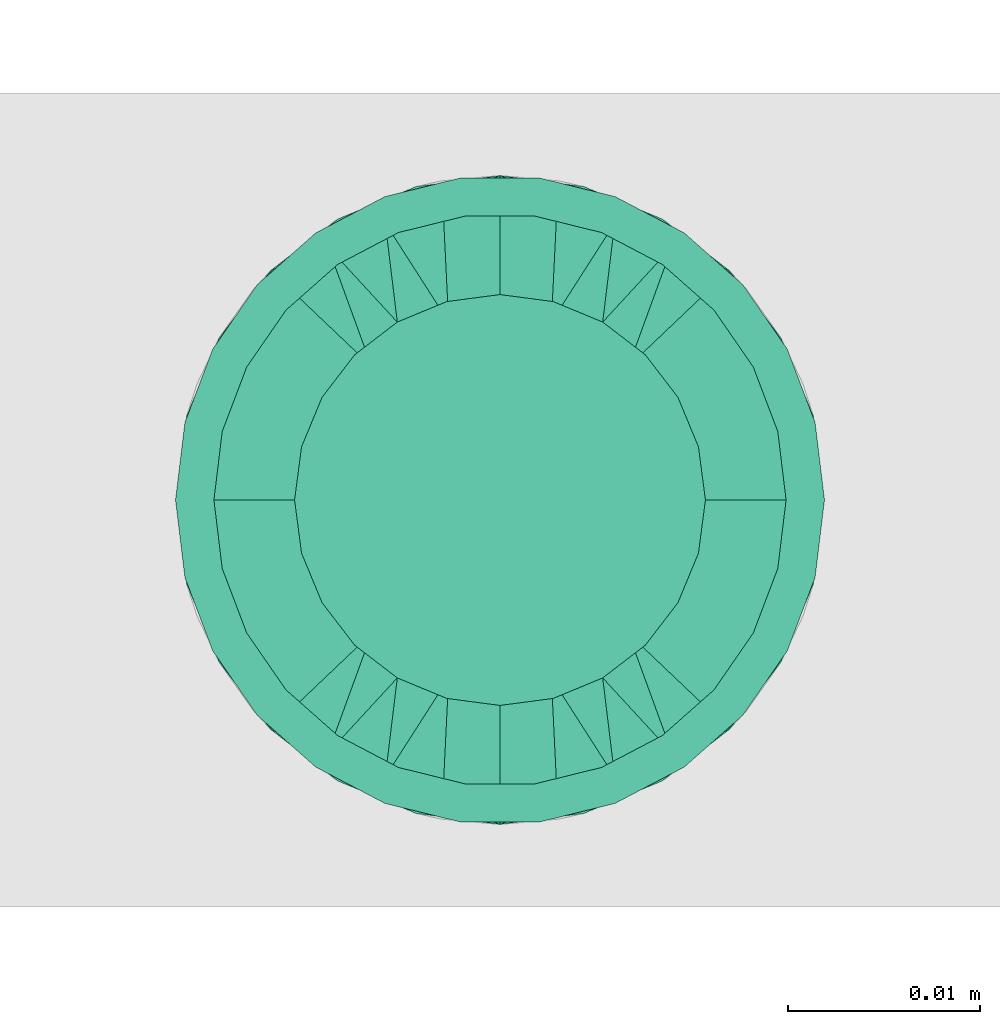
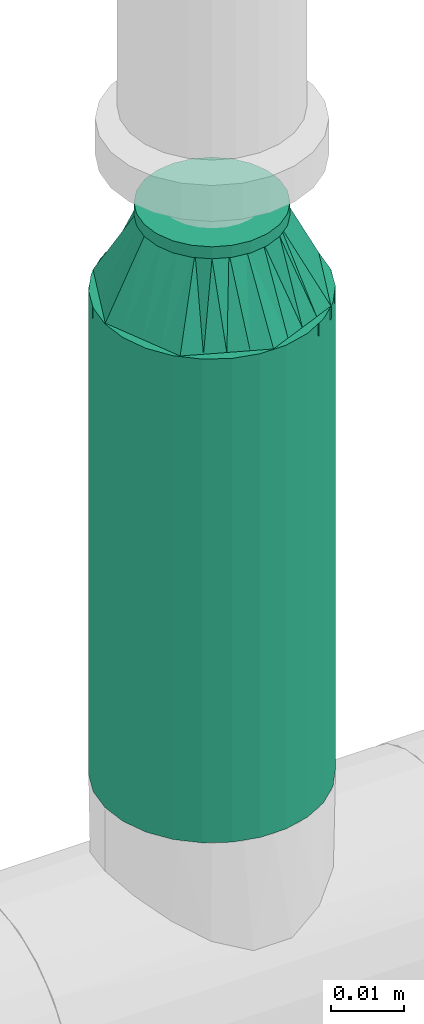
# One storey, part 15 of 94: 1 flow fitting, 1 flow segment.
"""IFC2X3 building model written with IfcOpenShell, lengths in millimetres."""

from ifc_helpers import new_model, entity, si_unit, converted_unit, derived_unit, direction, frame, origin_with_axes, origin_2d_with_axis, place, context, subcontext, project, spatial, hollow_circle, extrude, open_shell, surface_model, source, transform, mapped, type_object, element, save


model = new_model("IFC2X3")

# Units and contexts
model_context = context("Model", 3, precision=0.01, world=frame((0.0, 4.29681676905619e-09, 0.0)), true_north=direction((4.01073788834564e-13, 1.0)))
plan_context = context("Plan", 3, precision=0.01, world=frame((0.0, 4.29681676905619e-09, 0.0)), true_north=direction((4.01073788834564e-13, 1.0)))
body_context = subcontext(model_context, "Body", "Model", "MODEL_VIEW")
ifc_project = project(units=[converted_unit("PLANEANGLEUNIT", "DEGREE", entity("IfcPositiveLengthMeasure", 0.0174532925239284), si_unit("PLANEANGLEUNIT", "RADIAN"), dimensions=[0, 0, 0, 0, 0, 0, 0]), si_unit("AREAUNIT", "SQUARE_METRE"), si_unit("LENGTHUNIT", "METRE", prefix="MILLI"), si_unit("MASSUNIT", "GRAM", prefix="KILO"), si_unit("POWERUNIT", "WATT"), si_unit("PRESSUREUNIT", "PASCAL"), si_unit("FORCEUNIT", "NEWTON", prefix="KILO"), si_unit("ELECTRICCURRENTUNIT", "AMPERE"), si_unit("THERMODYNAMICTEMPERATUREUNIT", "DEGREE_CELSIUS"), si_unit("TIMEUNIT", "SECOND"), si_unit("VOLUMEUNIT", "CUBIC_METRE"), derived_unit("LINEARVELOCITYUNIT", [(si_unit("LENGTHUNIT", "METRE"), 1), (si_unit("TIMEUNIT", "SECOND"), -1)]), derived_unit("VOLUMETRICFLOWRATEUNIT", [(si_unit("VOLUMEUNIT", "CUBIC_METRE"), 1), (si_unit("TIMEUNIT", "SECOND"), -1)]), derived_unit("THERMALTRANSMITTANCEUNIT", [(si_unit("POWERUNIT", "WATT"), 1), (si_unit("THERMODYNAMICTEMPERATUREUNIT", "KELVIN"), -1), (si_unit("AREAUNIT", "SQUARE_METRE"), -1)])], contexts=[model_context, plan_context])

# Site, building, storey
site_placement = place(None, frame((0.0, -4.29681676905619e-09, 0.0), z_axis=(0.0, 0.0, 1.0), x_axis=(1.0, 0.0, 0.0)))
site = spatial("IfcSite", under=ifc_project, at=site_placement, CompositionType="ELEMENT")
building_placement = place(site_placement, frame((0.0, 4.29681676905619e-09, 0.0), z_axis=(0.0, 0.0, 1.0), x_axis=(1.0, 0.0, 0.0)))
building = spatial("IfcBuilding", under=site, at=building_placement, Name="mc-building", CompositionType="ELEMENT")
storey_placement = place(building_placement, frame((0.0, 0.0, 200300.0), z_axis=(0.0, 0.0, 1.0), x_axis=(1.0, 0.0, 0.0)))
storey = spatial("IfcBuildingStorey", under=building, at=storey_placement, Name="Nivå C", CompositionType="ELEMENT", Elevation=200300.0)

# Flow fitting
pipe_fitting_type = type_object("IfcPipeFittingType", Name="magi_pipe_fe_reducer_centric_short_NOR", PredefinedType="TRANSITION")
shared_shape_1 = source(origin_with_axes(), body_context, "Body", "SurfaceModel", [
    surface_model("IfcShellBasedSurfaceModel", [(14.4, 5.35, -9.26647), (14.4, 0.0, -10.7), (14.4, 2.76936, -10.33541), (14.4, 10.33541, -2.76936), (14.4, 7.56604, -7.56604), (14.4, -10.33541, -2.76936), (14.4, 9.26647, -5.35), (14.4, 0.0, 10.7), (14.4, -5.35, -9.26647), (14.4, -2.76936, -10.33541), (14.4, -7.56604, -7.56604), (14.4, -9.26647, -5.35), (14.4, 10.7, 0.0), (14.4, 10.33541, 2.76936), (14.4, 9.26647, 5.35), (14.4, 7.56604, 7.56604), (14.4, 2.76936, 10.33541), (14.4, 5.35, 9.26647), (14.4, -10.33541, 2.76936), (14.4, -7.56604, 7.56604), (14.4, -9.26647, 5.35), (14.4, -10.7, 0.0), (14.4, -2.76936, 10.33541), (14.4, -5.35, 9.26647), (12.4, 2.76936, 10.33541), (12.4, -10.33541, -2.76936), (12.4, 0.0, 10.7), (12.4, 5.35, 9.26647), (12.4, 7.56604, 7.56604), (12.4, 9.26647, 5.35), (12.4, 10.33541, 2.76936), (12.4, -10.33541, 2.76936), (12.4, -2.76936, 10.33541), (12.4, -7.56604, 7.56604), (12.4, -5.35, 9.26647), (12.4, -9.26647, 5.35), (12.4, -10.7, 0.0), (12.4, 10.33541, -2.76936), (12.4, 5.35, -9.26647), (12.4, 9.26647, -5.35), (12.4, 7.56604, -7.56604), (12.4, 2.76936, -10.33541), (12.4, -9.26647, -5.35), (12.4, -5.35, -9.26647), (12.4, -7.56604, -7.56604), (12.4, 0.0, -10.7), (12.4, -2.76936, -10.33541), (12.4, 10.7, 0.0), (-2.0, 11.9501, 11.9501), (-2.0, 0.0, 16.9), (-2.0, 4.37404, 16.32415), (-2.0, 8.45, 14.63583), (-2.0, 14.63583, 8.45), (-2.0, 16.32415, 4.37404), (-2.0, -16.32415, 4.37404), (-2.0, -8.45, 14.63583), (-2.0, -14.63583, 8.45), (-2.0, -11.9501, 11.9501), (-2.0, -4.37404, 16.32415), (-2.0, -16.32415, -4.37404), (-2.0, -16.9, 0.0), (-2.0, -8.45, -14.63583), (-2.0, 16.32415, -4.37404), (-2.0, 11.9501, -11.9501), (-2.0, 14.63583, -8.45), (-2.0, 8.45, -14.63583), (-2.0, 4.37404, -16.32415), (-2.0, 0.0, -16.9), (-2.0, -11.9501, -11.9501), (-2.0, -14.63583, -8.45), (-2.0, -4.37404, -16.32415), (-2.0, 16.9, 0.0), (0.0, 4.37404, -16.32415), (0.0, 8.45, -14.63583), (0.0, 11.9501, -11.9501), (0.0, 0.0, -16.9), (0.0, 16.32415, -4.37404), (0.0, 16.32415, 4.37404), (0.0, 14.63583, -8.45), (0.0, -8.45, -14.63583), (0.0, -4.37404, -16.32415), (0.0, -11.9501, -11.9501), (0.0, -16.32415, -4.37404), (0.0, -14.63583, -8.45), (0.0, -16.32415, 4.37404), (0.0, 16.9, 0.0), (0.0, 14.63583, 8.45), (0.0, 11.9501, 11.9501), (0.0, 4.37404, 16.32415), (0.0, 8.45, 14.63583), (0.0, 0.0, 16.9), (0.0, -14.63583, 8.45), (0.0, -16.9, 0.0), (0.0, -8.45, 14.63583), (0.0, -11.9501, 11.9501), (0.0, -4.37404, 16.32415), (12.4, 9.3625, -2.31662), (0.0, 14.42505, -5.97505), (0.0, 15.66253, -2.98753), (12.4, -6.6875, -6.94985), (0.0, -13.18758, -8.96258), (0.0, 2.98753, -15.66253), (12.4, 0.0, -9.26647), (12.4, 6.6875, -6.94985), (0.0, 8.96258, -13.18758), (12.4, -9.3625, -2.31662), (0.0, -15.66253, -2.98753), (0.0, -14.42505, -5.97505), (0.0, 5.97505, -14.42505), (0.0, -2.98753, -15.66253), (0.0, -8.96258, -13.18758), (0.0, 13.18758, -8.96258), (12.4, 8.025, -4.63324), (12.4, -2.675, -9.26647), (12.4, 2.675, -9.26647), (0.0, -5.97505, -14.42505), (12.4, -8.025, -4.63324), (12.4, -9.3625, 2.31662), (0.0, -14.42505, 5.97505), (0.0, -15.66253, 2.98753), (12.4, 6.6875, 6.94985), (0.0, 13.18758, 8.96258), (0.0, -2.98753, 15.66253), (12.4, 0.0, 9.26647), (12.4, -6.6875, 6.94985), (0.0, -8.96258, 13.18758), (12.4, 9.3625, 2.31662), (0.0, 15.66253, 2.98753), (0.0, 14.42505, 5.97505), (0.0, -5.97505, 14.42505), (0.0, 2.98753, 15.66253), (0.0, 8.96258, 13.18758), (0.0, -13.18758, 8.96258), (12.4, -8.025, 4.63324), (12.4, 2.675, 9.26647), (12.4, -2.675, 9.26647), (0.0, 5.97505, 14.42505), (12.4, 8.025, 4.63324)], [open_shell([[[0, 1, 2]], [[3, 0, 4]], [[5, 0, 3]], [[3, 4, 6]], [[7, 5, 3]], [[1, 8, 9]], [[1, 0, 8]], [[10, 5, 11]], [[5, 10, 8]], [[0, 5, 8]], [[3, 12, 13]], [[13, 14, 15]], [[13, 15, 16]], [[7, 3, 16]], [[16, 15, 17]], [[7, 18, 5]], [[18, 19, 20]], [[21, 5, 18]], [[19, 22, 23]], [[22, 19, 18]], [[7, 22, 18]], [[13, 16, 3]], [[24, 25, 26]], [[27, 25, 24]], [[28, 29, 30]], [[28, 25, 27]], [[31, 26, 25]], [[32, 33, 34]], [[33, 32, 31]], [[33, 31, 35]], [[32, 26, 31]], [[31, 25, 36]], [[30, 37, 28]], [[25, 28, 37]], [[38, 37, 39]], [[37, 38, 25]], [[38, 39, 40]], [[41, 25, 38]], [[42, 43, 44]], [[43, 42, 25]], [[43, 45, 46]], [[43, 25, 41]], [[41, 45, 43]], [[37, 30, 47]], [[25, 5, 36]], [[42, 11, 25]], [[8, 44, 43]], [[42, 44, 10]], [[9, 43, 46]], [[25, 11, 5]], [[5, 21, 36]], [[9, 8, 43]], [[10, 44, 8]], [[10, 11, 42]], [[1, 9, 46]], [[46, 45, 1]], [[41, 2, 45]], [[38, 0, 41]], [[6, 40, 39]], [[38, 40, 4]], [[3, 39, 37]], [[38, 4, 0]], [[0, 2, 41]], [[12, 3, 37]], [[6, 39, 3]], [[6, 4, 40]], [[47, 12, 37]], [[45, 2, 1]], [[30, 13, 47]], [[29, 14, 30]], [[17, 28, 27]], [[29, 28, 15]], [[16, 27, 24]], [[30, 14, 13]], [[13, 12, 47]], [[16, 17, 27]], [[15, 28, 17]], [[15, 14, 29]], [[7, 16, 24]], [[24, 26, 7]], [[32, 22, 26]], [[34, 23, 32]], [[20, 33, 35]], [[34, 33, 19]], [[18, 35, 31]], [[34, 19, 23]], [[23, 22, 32]], [[21, 18, 31]], [[20, 35, 18]], [[20, 19, 33]], [[36, 21, 31]], [[26, 22, 7]], [[48, 49, 50]], [[48, 50, 51]], [[48, 52, 53]], [[48, 53, 49]], [[49, 53, 54]], [[55, 56, 57]], [[55, 58, 49]], [[56, 55, 49]], [[49, 54, 56]], [[54, 59, 60]], [[54, 53, 61]], [[53, 62, 63]], [[63, 62, 64]], [[63, 65, 66]], [[61, 53, 63]], [[67, 63, 66]], [[59, 68, 69]], [[68, 59, 61]], [[61, 67, 70]], [[59, 54, 61]], [[63, 67, 61]], [[53, 71, 62]], [[72, 73, 74]], [[75, 72, 74]], [[74, 76, 77]], [[76, 74, 78]], [[74, 77, 79]], [[75, 79, 80]], [[75, 74, 79]], [[81, 82, 83]], [[82, 81, 79]], [[79, 84, 82]], [[77, 76, 85]], [[77, 86, 87]], [[77, 87, 88]], [[88, 84, 79]], [[88, 87, 89]], [[84, 88, 90]], [[90, 91, 84]], [[92, 82, 84]], [[91, 93, 94]], [[91, 90, 93]], [[93, 90, 95]], [[79, 77, 88]], [[59, 82, 60]], [[69, 83, 59]], [[79, 68, 61]], [[69, 68, 81]], [[80, 61, 70]], [[59, 83, 82]], [[82, 92, 60]], [[80, 79, 61]], [[81, 68, 79]], [[81, 83, 69]], [[75, 80, 70]], [[70, 67, 75]], [[66, 72, 67]], [[65, 73, 66]], [[78, 63, 64]], [[65, 63, 74]], [[76, 64, 62]], [[65, 74, 73]], [[73, 72, 66]], [[85, 76, 62]], [[78, 64, 76]], [[78, 74, 63]], [[71, 85, 62]], [[67, 72, 75]], [[53, 77, 71]], [[52, 86, 53]], [[89, 48, 51]], [[52, 48, 87]], [[88, 51, 50]], [[53, 86, 77]], [[77, 85, 71]], [[88, 89, 51]], [[87, 48, 89]], [[87, 86, 52]], [[90, 88, 50]], [[50, 49, 90]], [[58, 95, 49]], [[55, 93, 58]], [[91, 57, 56]], [[55, 57, 94]], [[84, 56, 54]], [[55, 94, 93]], [[93, 95, 58]], [[92, 84, 54]], [[91, 56, 84]], [[91, 94, 57]], [[60, 92, 54]], [[49, 95, 90]], [[27, 34, 47]], [[47, 34, 43]], [[43, 38, 47]], [[43, 34, 36]], [[90, 87, 94]], [[92, 94, 87]], [[87, 74, 92]], [[75, 92, 74]], [[81, 92, 75]], [[74, 87, 85]], [[96, 97, 98]], [[81, 99, 100]], [[101, 102, 75]], [[98, 85, 47]], [[74, 103, 104]], [[104, 103, 38]], [[105, 106, 107]], [[38, 108, 104]], [[102, 109, 75]], [[110, 99, 81]], [[47, 96, 98]], [[103, 111, 112]], [[109, 102, 113]], [[36, 92, 106]], [[102, 101, 114]], [[110, 115, 43]], [[96, 112, 97]], [[107, 116, 105]], [[36, 106, 105]], [[113, 115, 109]], [[43, 115, 113]], [[116, 107, 100]], [[108, 38, 114]], [[111, 103, 74]], [[111, 97, 112]], [[99, 110, 43]], [[116, 100, 99]], [[101, 108, 114]], [[117, 118, 119]], [[87, 120, 121]], [[122, 123, 90]], [[119, 92, 36]], [[94, 124, 125]], [[125, 124, 34]], [[126, 127, 128]], [[34, 129, 125]], [[123, 130, 90]], [[131, 120, 87]], [[36, 117, 119]], [[124, 132, 133]], [[130, 123, 134]], [[47, 85, 127]], [[123, 122, 135]], [[131, 136, 27]], [[117, 133, 118]], [[128, 137, 126]], [[47, 127, 126]], [[134, 136, 130]], [[27, 136, 134]], [[137, 128, 121]], [[129, 34, 135]], [[132, 124, 94]], [[132, 118, 133]], [[120, 131, 27]], [[137, 121, 120]], [[122, 129, 135]]])]),
])
flow_fitting_placement = place(storey_placement, frame((515508.72873, 407003.74497, 2962.64799999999), z_axis=(0.0, 1.0, 0.0), x_axis=(0.0, 0.0, 1.0)))
element("IfcFlowFitting", 1, at=flow_fitting_placement, inside=storey, type_object=pipe_fitting_type, Name="magi_pipe_fe_reducer_centric_short_NOR", context=body_context, shape_type="MappedRepresentation", body=[
    mapped(shared_shape_1, transform((0.0, 0.0, 0.0), scale=1.0)),
])

# Flow segment
pipe_segment_type = type_object("IfcPipeSegmentType", Name="Stålrør normaltykke", PredefinedType="RIGIDSEGMENT")
shared_shape_2 = source(origin_with_axes(), body_context, "Body", "SweptSolid", [
    extrude(hollow_circle(Radius=16.9, WallThickness=2.0, at=origin_2d_with_axis()), frame((0.0, 0.0, 0.0), z_axis=(1.0, 0.0, 0.0), x_axis=(0.0, 1.0, 0.0)), (0.0, 0.0, 1.0), 80.8),
])
flow_segment_placement = place(storey_placement, frame((515508.72873, 407003.74497, 2881.79999999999), z_axis=(0.0, 1.0, 0.0), x_axis=(0.0, 0.0, 1.0)))
element("IfcFlowSegment", 2, at=flow_segment_placement, inside=storey, type_object=pipe_segment_type, Name="Stålrør normaltykke", context=body_context, shape_type="MappedRepresentation", body=[
    mapped(shared_shape_2, transform((0.0, 0.0, 0.0), scale=1.0)),
])

save(model, "model.ifc")
